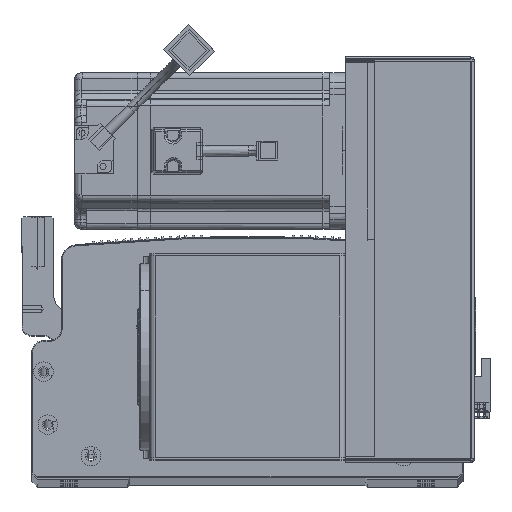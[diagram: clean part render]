
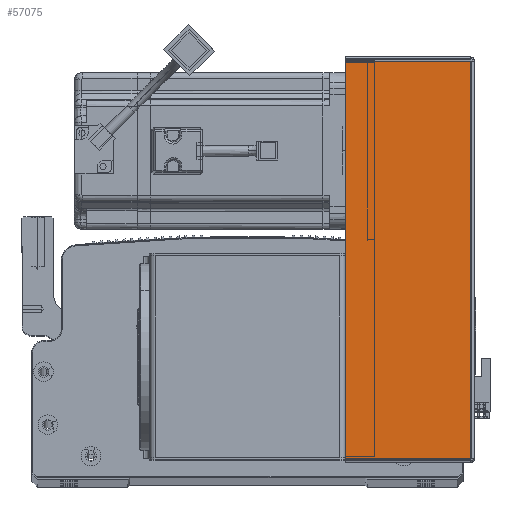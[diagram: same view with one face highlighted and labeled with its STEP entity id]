
A CAD part, top view. The second image highlights one B-rep face of the part: STEP entity #57075.
In plain terms, the highlighted planar face has unit normal (0, 0, 1) as drawn and (0, -1, 0) by its records, which use the part's own axes.
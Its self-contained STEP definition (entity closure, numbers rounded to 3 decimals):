
#1912 = AXIS2_PLACEMENT_3D ( 'NONE', #20799, #21106, #86048 ) ;
#7194 = DIRECTION ( 'NONE',  ( 0., 0., 1. ) ) ;
#7917 = VECTOR ( 'NONE', #33882, 1000. ) ;
#10793 = CARTESIAN_POINT ( 'NONE',  ( 0.737, -1.5, -203.293 ) ) ;
#13611 = ORIENTED_EDGE ( 'NONE', *, *, #72293, .F. ) ;
#16749 = VECTOR ( 'NONE', #7194, 1000. ) ;
#17089 = FACE_OUTER_BOUND ( 'NONE', #71709, .T. ) ;
#19325 = CARTESIAN_POINT ( 'NONE',  ( 0., -1.5, -203.293 ) ) ;
#20799 = CARTESIAN_POINT ( 'NONE',  ( 0., -1.5, 0. ) ) ;
#21106 = DIRECTION ( 'NONE',  ( 0., 1., 0. ) ) ;
#21450 = VERTEX_POINT ( 'NONE', #67565 ) ;
#23532 = LINE ( 'NONE', #42594, #16749 ) ;
#24569 = VERTEX_POINT ( 'NONE', #10793 ) ;
#27975 = LINE ( 'NONE', #81908, #39297 ) ;
#32372 = DIRECTION ( 'NONE',  ( 1., 0., 0. ) ) ;
#33882 = DIRECTION ( 'NONE',  ( 1., 0., 0. ) ) ;
#39297 = VECTOR ( 'NONE', #51835, 1000. ) ;
#42594 = CARTESIAN_POINT ( 'NONE',  ( 64.5, -1.5, 0. ) ) ;
#46419 = LINE ( 'NONE', #55174, #7917 ) ;
#48816 = EDGE_CURVE ( 'NONE', #24569, #21450, #27975, .T. ) ;
#49858 = VECTOR ( 'NONE', #32372, 1000. ) ;
#51151 = VERTEX_POINT ( 'NONE', #79737 ) ;
#51835 = DIRECTION ( 'NONE',  ( 0., 0., 1. ) ) ;
#52161 = LINE ( 'NONE', #19325, #49858 ) ;
#55174 = CARTESIAN_POINT ( 'NONE',  ( 0., -1.5, -0.707 ) ) ;
#56692 = PLANE ( 'NONE',  #1912 ) ;
#57075 = ADVANCED_FACE ( 'NONE', ( #17089 ), #56692, .F. ) ;
#57889 = CARTESIAN_POINT ( 'NONE',  ( 64.5, -1.5, -203.293 ) ) ;
#61024 = EDGE_CURVE ( 'NONE', #81921, #51151, #23532, .T. ) ;
#67565 = CARTESIAN_POINT ( 'NONE',  ( 0.737, -1.5, -0.707 ) ) ;
#71709 = EDGE_LOOP ( 'NONE', ( #81631, #87444, #78247, #13611 ) ) ;
#72293 = EDGE_CURVE ( 'NONE', #21450, #51151, #46419, .T. ) ;
#75885 = EDGE_CURVE ( 'NONE', #24569, #81921, #52161, .T. ) ;
#78247 = ORIENTED_EDGE ( 'NONE', *, *, #61024, .T. ) ;
#79737 = CARTESIAN_POINT ( 'NONE',  ( 64.5, -1.5, -0.707 ) ) ;
#81631 = ORIENTED_EDGE ( 'NONE', *, *, #48816, .F. ) ;
#81908 = CARTESIAN_POINT ( 'NONE',  ( 0.737, -1.5, 0. ) ) ;
#81921 = VERTEX_POINT ( 'NONE', #57889 ) ;
#86048 = DIRECTION ( 'NONE',  ( -1., 0., 0. ) ) ;
#87444 = ORIENTED_EDGE ( 'NONE', *, *, #75885, .T. ) ;
